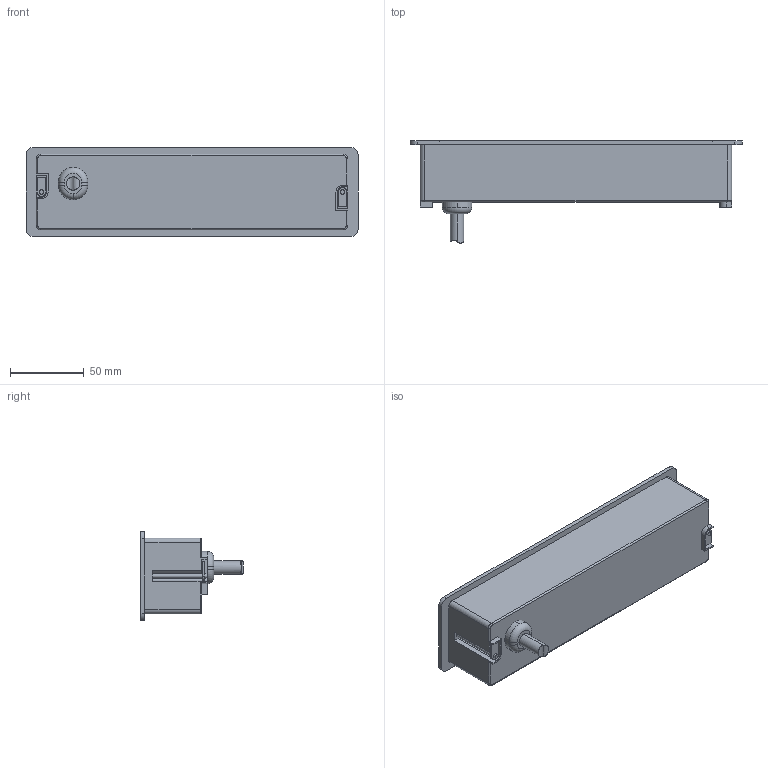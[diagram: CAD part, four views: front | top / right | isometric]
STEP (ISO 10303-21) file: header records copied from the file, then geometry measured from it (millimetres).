
FILE_DESCRIPTION (( 'STEP AP203' ), '1' );
FILE_NAME ('14-0965_SEAMLESS.STEP', '2026-01-19T05:48:26', ( '' ), ( '' ), 'SwSTEP 2.0', 'SolidWorks 2025', '' );
FILE_SCHEMA (( 'CONFIG_CONTROL_DESIGN' ));
Length unit declared in the file: millimetre
Products named in the file (1): 14-0965_SEAMLESS
Bounding box: 225.7 x 69.5 x 60.5 mm (x, y, z)
Volume: 457197.5 mm3; surface area: 55699.8 mm2
Topology: 1 solids, 1 shells, 229 faces, 565 edges, 372 vertices
Faces by surface type: plane 168, cylinder 54, torus 7
Entity records: 6875 total; most frequent: CARTESIAN_POINT 1249, DIRECTION 1136, ORIENTED_EDGE 1130, EDGE_CURVE 565, VECTOR 450, LINE 450, VERTEX_POINT 372, AXIS2_PLACEMENT_3D 343
